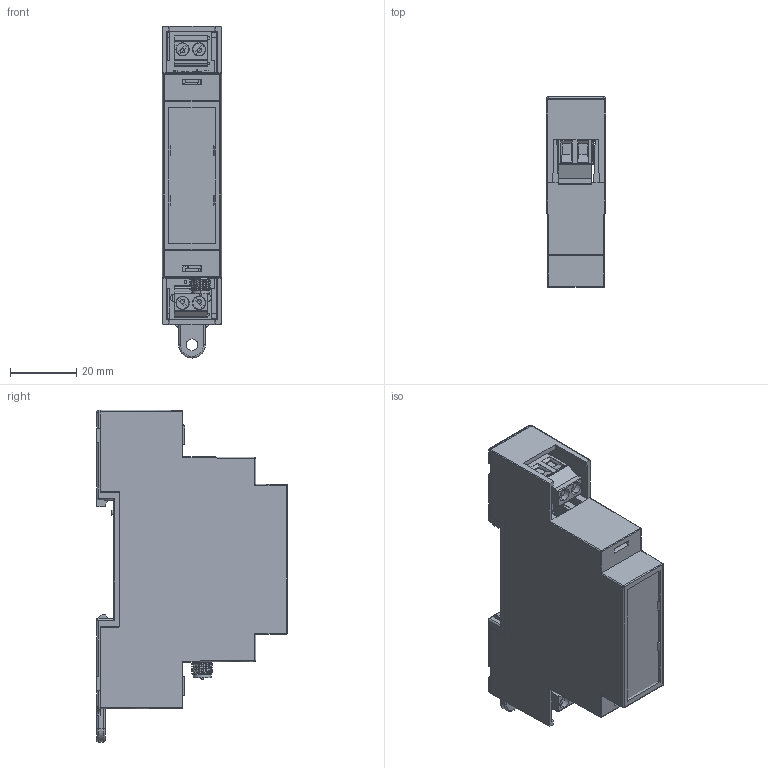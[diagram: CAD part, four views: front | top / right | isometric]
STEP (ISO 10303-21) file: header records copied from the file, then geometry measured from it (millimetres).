
FILE_DESCRIPTION(/* description */ (''),/* implementation_level */ '2;1');
FILE_NAME(/* name */ 'C:\Enapter\CAD\Modules\ENP-RS485_Cad_3d.stp',/* time_stamp */ '2020-03-20T16:24:55+03:00',/* author */ ('IgorAzarkh'),/* organization */ (''),/* preprocessor_version */ 'ST-DEVELOPER v18',/* originating_system */ 'AutoCAD Mechanical',/* authorisation */ '');
FILE_SCHEMA (('AUTOMOTIVE_DESIGN { 1 0 10303 214 3 1 1 }'));
Products named in the file (47): Product; ENP-RS485; D1MG-BASE; D1MG-BODY; D1MG-COVER; ENP-RS485-BOARD-BOTTOM; PinHeader_1x02_P2.54mm_Vertical; SOLID$4$ATF; C_1812_4532Metric; SOLID$5$ATF; D_MiniMELF; SOLID$6$ATF; C_1206_3216Metric; SOLID$10$ATF; SRN1060; COMPOUND; PowerPAD; SOLID$11$ATF; SOT-23; SOLID$12$ATF; SOIC-16_3.9x9.9mm_P1.27mm; SOLID$13$ATF; R_0805_2012Metric; SOLID$9$ATF; MKDSN_2$5; SOLID$14$ATF; COMPOUND$1$ATF; MKDSN_2$5_1; SOLID$14$ATF_1; ENP-RS485-BOARD-TOP; C_0603_1608Metric; SOLID$1$ATF; PinHeader_2x04_P2.54mm_Vertical; SOLID$16$ATF; SOLID$17$ATF; PinSocket_1x06_P2.54mm_Horizontal; SOLID$18$ATF; ESP32-WROOM-32; SOLID$19$ATF; SOIC-8_3.9x4.9mm_P1.27mm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
Assembly tree (76 placements, depth 5):
  Product
    ENP-RS485
      D1MG-BASE
      D1MG-BODY
      D1MG-COVER
      ENP-RS485-BOARD-BOTTOM
        SOLID$1$ATF
        C_0603_1608Metric  x6
          SOLID$1$ATF
        C_0805_2012Metric  x4
          SOLID$3$ATF
        PinHeader_1x02_P2.54mm_Vertical
          SOLID$4$ATF
        C_1812_4532Metric  x2
          SOLID$5$ATF
        D_MiniMELF
          SOLID$6$ATF
        R_0402_1005Metric  x4
          SOLID$7$ATF
        R_0603_1608Metric
          SOLID$8$ATF
        R_0805_2012Metric  x3
          SOLID$9$ATF
        C_1206_3216Metric
          SOLID$10$ATF
        SRN1060
          COMPOUND
        PowerPAD
          SOLID$11$ATF
        SOT-23
          SOLID$12$ATF
        SOIC-16_3.9x9.9mm_P1.27mm
          SOLID$13$ATF
        MKDSN_2$5
          SOLID$14$ATF
        COMPOUND$1$ATF
        MKDSN_2$5_1
          SOLID$14$ATF_1
      ENP-RS485-BOARD-TOP
        C_0603_1608Metric  x4
          SOLID$1$ATF
        SOIC-8_3.9x4.9mm_P1.27mm  x2
          SOLID$15$ATF
        R_0402_1005Metric  x7
          SOLID$7$ATF
        PinHeader_2x04_P2.54mm_Vertical
          SOLID$16$ATF
        SOLID$17$ATF
        PinSocket_1x06_P2.54mm_Horizontal
          SOLID$18$ATF
        ESP32-WROOM-32
          SOLID$19$ATF
        R_0603_1608Metric  x2
          SOLID$8$ATF
        C_0805_2012Metric
          SOLID$3$ATF
Bounding box: 18.1 x 57.5 x 100.2 mm (x, y, z)
Volume: 31404.2 mm3; surface area: 41135.4 mm2
Topology: 65 solids, 134 shells, 4527 faces, 11789 edges, 7629 vertices
Faces by surface type: plane 3423, cylinder 988, bspline 73, sphere 23, cone 11, torus 9
Full cylindrical faces by diameter (mm): 0.2 x8, 0.4 x1, 0.5 x8, 0.6 x3, 0.78 x4, 0.8 x6, 0.99 x2, 1 x39, 1.2 x4, 1.3 x6, 1.35 x2, 1.4 x3, 1.8 x1, 1.92 x1, 2 x2, 2.36 x2, 3.14 x1, 3.5 x2
Entity records: 113627 total; most frequent: CARTESIAN_POINT 23793, ORIENTED_EDGE 18336, DIRECTION 17935, EDGE_CURVE 9340, LINE 7645, VECTOR 7645, VERTEX_POINT 6033, AXIS2_PLACEMENT_3D 5145
